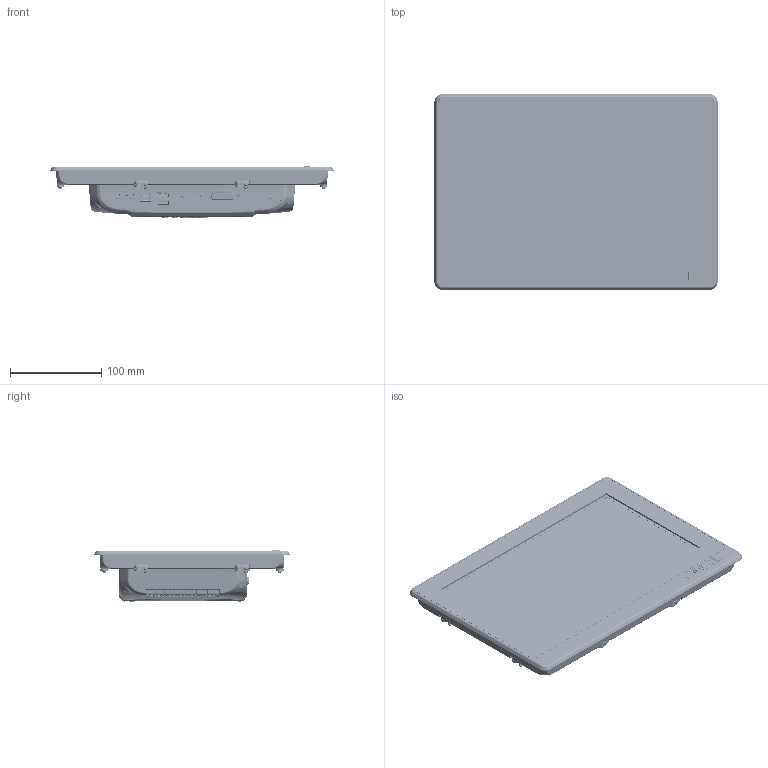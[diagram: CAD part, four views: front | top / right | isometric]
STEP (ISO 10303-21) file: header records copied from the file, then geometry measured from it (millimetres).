
FILE_DESCRIPTION (( 'STEP AP214' ), '1' );
FILE_NAME ('IDD22116.STEP', '2024-05-08T05:39:39', ( '' ), ( '' ), 'SwSTEP 2.0', 'SolidWorks 2018', '' );
FILE_SCHEMA (( 'AUTOMOTIVE_DESIGN' ));
Length unit declared in the file: millimetre
Products named in the file (1): IDD22116
Bounding box: 310 x 214 x 57.1 mm (x, y, z)
Volume: 637280.2 mm3; surface area: 501524.8 mm2
Topology: 126 solids, 126 shells, 10801 faces, 27344 edges, 16673 vertices
Faces by surface type: plane 4679, cylinder 3090, bspline 1772, torus 746, sphere 267, cone 247
Full cylindrical faces by diameter (mm): 2 x2, 2.2 x4, 3.2 x12, 3.5 x2, 4 x1, 4.5 x8
Entity records: 530568 total; most frequent: CARTESIAN_POINT 168602, ORIENTED_EDGE 53786, DIRECTION 44804, EDGE_CURVE 26893, VERTEX_POINT 16653, AXIS2_PLACEMENT_3D 15325, LINE 14154, VECTOR 14154
